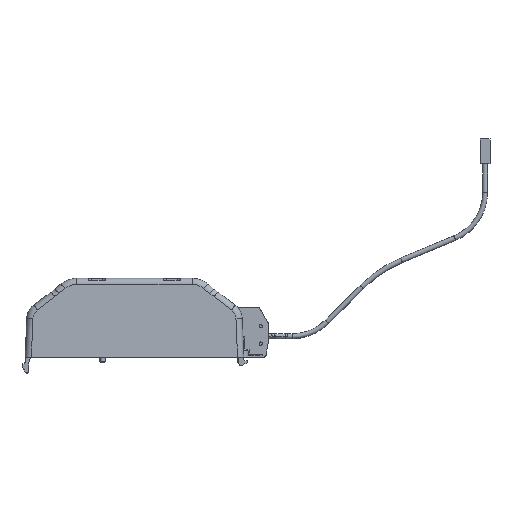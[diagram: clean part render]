
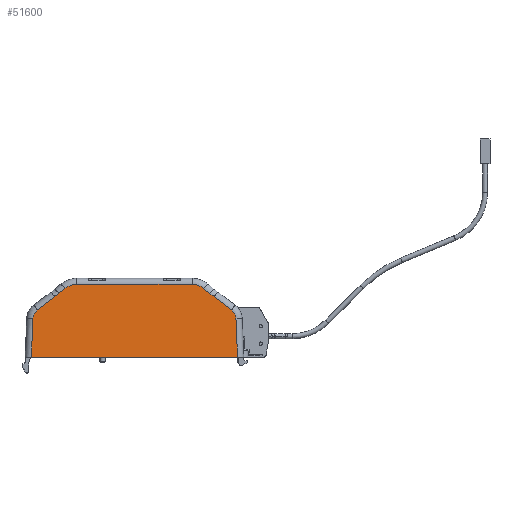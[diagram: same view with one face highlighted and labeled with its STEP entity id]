
A CAD part, left-side view. The second image highlights one B-rep face of the part: STEP entity #51600.
In plain terms, the highlighted planar face has unit normal (-0.999, 0, 0.04).
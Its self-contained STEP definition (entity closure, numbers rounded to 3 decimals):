
#5807=DIRECTION('',(0.,-1.,0.));
#5808=VECTOR('',#5807,83.604);
#5809=CARTESIAN_POINT('',(-28.,41.802,
0.));
#5810=LINE('',#5809,#5808);
#10929=DIRECTION('',(0.,1.,0.));
#10930=VECTOR('',#10929,46.759);
#10931=CARTESIAN_POINT('',(-26.811,-23.38,
29.6));
#10932=LINE('',#10931,#10930);
#11529=DIRECTION('',(0.04,-0.04,0.998));
#11530=VECTOR('',#11529,15.784);
#11531=CARTESIAN_POINT('',(-28.,41.802,
0.));
#11532=LINE('',#11531,#11530);
#11533=CARTESIAN_POINT('',(-27.374,36.668,
15.579));
#11534=DIRECTION('',(0.999,0.,-0.04));
#11535=DIRECTION('',(0.002,0.999,0.04));
#11536=AXIS2_PLACEMENT_3D('',#11533,#11534,#11535);
#11538=DIRECTION('',(0.024,-0.799,0.601));
#11539=VECTOR('',#11538,8.867);
#11540=CARTESIAN_POINT('',(-27.23,39.378,
19.175));
#11541=LINE('',#11540,#11539);
#11542=CARTESIAN_POINT('',(-27.016,32.294,
24.503));
#11543=CARTESIAN_POINT('',(-26.999,31.73,
24.928));
#11544=CARTESIAN_POINT('',(-26.981,31.175,
25.365));
#11545=CARTESIAN_POINT('',(-26.963,30.634,
25.818));
#11547=DIRECTION('',(0.026,-0.768,0.64));
#11548=VECTOR('',#11547,3.194);
#11549=CARTESIAN_POINT('',(-26.963,30.634,
25.818));
#11550=LINE('',#11549,#11548);
#11551=CARTESIAN_POINT('',(-27.112,23.379,
22.11));
#11552=DIRECTION('',(0.999,0.,-0.04));
#11553=DIRECTION('',(0.031,0.641,0.767));
#11554=AXIS2_PLACEMENT_3D('',#11551,#11552,#11553);
#11556=CARTESIAN_POINT('',(-27.112,-23.379,
22.11));
#11557=DIRECTION('',(0.999,0.,-0.04));
#11558=DIRECTION('',(0.04,0.,0.999));
#11559=AXIS2_PLACEMENT_3D('',#11556,#11557,#11558);
#11561=DIRECTION('',(-0.026,-0.768,-0.64));
#11562=VECTOR('',#11561,3.194);
#11563=CARTESIAN_POINT('',(-26.881,-28.181,
27.862));
#11564=LINE('',#11563,#11562);
#11565=CARTESIAN_POINT('',(-26.963,-30.634,
25.818));
#11566=CARTESIAN_POINT('',(-26.981,-31.175,
25.365));
#11567=CARTESIAN_POINT('',(-26.999,-31.73,
24.928));
#11568=CARTESIAN_POINT('',(-27.016,-32.294,
24.503));
#11570=DIRECTION('',(-0.024,-0.799,-0.601));
#11571=VECTOR('',#11570,8.867);
#11572=CARTESIAN_POINT('',(-27.016,-32.294,
24.503));
#11573=LINE('',#11572,#11571);
#11574=CARTESIAN_POINT('',(-27.374,-36.668,
15.579));
#11575=DIRECTION('',(0.999,0.,-0.04));
#11576=DIRECTION('',(0.032,-0.602,0.798));
#11577=AXIS2_PLACEMENT_3D('',#11574,#11575,#11576);
#11579=DIRECTION('',(-0.04,-0.04,-0.998));
#11580=VECTOR('',#11579,15.785);
#11581=CARTESIAN_POINT('',(-27.367,-41.169,
15.759));
#11582=LINE('',#11581,#11580);
#11583=CARTESIAN_POINT('',(-28.,41.802,
0.));
#30115=CARTESIAN_POINT('',(-26.811,-23.379,
29.6));
#30116=VERTEX_POINT('',#30115);
#30117=CARTESIAN_POINT('',(-26.811,23.379,
29.6));
#30118=VERTEX_POINT('',#30117);
#30225=VERTEX_POINT('',#11583);
#30226=CARTESIAN_POINT('',(-28.,-41.802,
0.));
#30227=VERTEX_POINT('',#30226);
#31689=CARTESIAN_POINT('',(-26.963,-30.634,
25.818));
#31690=VERTEX_POINT('',#31689);
#31691=CARTESIAN_POINT('',(-26.881,-28.181,
27.862));
#31692=VERTEX_POINT('',#31691);
#31693=CARTESIAN_POINT('',(-27.016,-32.294,
24.503));
#31694=VERTEX_POINT('',#31693);
#31695=CARTESIAN_POINT('',(-27.23,-39.378,
19.175));
#31696=VERTEX_POINT('',#31695);
#31697=CARTESIAN_POINT('',(-27.367,-41.169,
15.759));
#31698=VERTEX_POINT('',#31697);
#31699=CARTESIAN_POINT('',(-27.367,41.169,
15.759));
#31700=VERTEX_POINT('',#31699);
#31701=CARTESIAN_POINT('',(-27.23,39.378,
19.175));
#31702=VERTEX_POINT('',#31701);
#31703=CARTESIAN_POINT('',(-27.016,32.294,
24.503));
#31704=VERTEX_POINT('',#31703);
#31705=VERTEX_POINT('',#11545);
#31706=CARTESIAN_POINT('',(-26.881,28.181,
27.862));
#31707=VERTEX_POINT('',#31706);
#51573=CARTESIAN_POINT('',(-28.,46.684,0.));
#51574=DIRECTION('',(-0.999,0.,0.04));
#51575=DIRECTION('',(0.,1.,0.));
#51576=AXIS2_PLACEMENT_3D('',#51573,#51574,#51575);
#51577=PLANE('',#51576);
#51578=ORIENTED_EDGE('',*,*,#45017,.F.);
#51580=ORIENTED_EDGE('',*,*,#51579,.T.);
#51582=ORIENTED_EDGE('',*,*,#51581,.T.);
#51584=ORIENTED_EDGE('',*,*,#51583,.T.);
#51586=ORIENTED_EDGE('',*,*,#51585,.T.);
#51588=ORIENTED_EDGE('',*,*,#51587,.T.);
#51590=ORIENTED_EDGE('',*,*,#51589,.T.);
#51591=ORIENTED_EDGE('',*,*,#50671,.F.);
#51592=ORIENTED_EDGE('',*,*,#51131,.T.);
#51593=ORIENTED_EDGE('',*,*,#51491,.T.);
#51594=ORIENTED_EDGE('',*,*,#51525,.T.);
#51595=ORIENTED_EDGE('',*,*,#51539,.T.);
#51596=ORIENTED_EDGE('',*,*,#51553,.T.);
#51597=ORIENTED_EDGE('',*,*,#51565,.T.);
#51598=EDGE_LOOP('',(#51578,#51580,#51582,#51584,#51586,#51588,#51590,#51591,
#51592,#51593,#51594,#51595,#51596,#51597));
#51599=FACE_OUTER_BOUND('',#51598,.F.);
#51600=ADVANCED_FACE('',(#51599),#51577,.T.);
#11537=CIRCLE('',#11536,4.504);
#11546=B_SPLINE_CURVE_WITH_KNOTS('',3,(#11542,#11543,#11544,#11545),
.UNSPECIFIED.,.F.,.F.,(4,4),(0.,1.),.UNSPECIFIED.);
#11555=CIRCLE('',#11554,7.496);
#11560=CIRCLE('',#11559,7.496);
#11569=B_SPLINE_CURVE_WITH_KNOTS('',3,(#11565,#11566,#11567,#11568),
.UNSPECIFIED.,.F.,.F.,(4,4),(0.,1.),.UNSPECIFIED.);
#11578=CIRCLE('',#11577,4.505);
#45017=EDGE_CURVE('',#30225,#30227,#5810,.T.);
#50671=EDGE_CURVE('',#30116,#30118,#10932,.T.);
#51131=EDGE_CURVE('',#30116,#31692,#11560,.T.);
#51491=EDGE_CURVE('',#31692,#31690,#11564,.T.);
#51525=EDGE_CURVE('',#31690,#31694,#11569,.T.);
#51539=EDGE_CURVE('',#31694,#31696,#11573,.T.);
#51553=EDGE_CURVE('',#31696,#31698,#11578,.T.);
#51565=EDGE_CURVE('',#31698,#30227,#11582,.T.);
#51579=EDGE_CURVE('',#30225,#31700,#11532,.T.);
#51581=EDGE_CURVE('',#31700,#31702,#11537,.T.);
#51583=EDGE_CURVE('',#31702,#31704,#11541,.T.);
#51585=EDGE_CURVE('',#31704,#31705,#11546,.T.);
#51587=EDGE_CURVE('',#31705,#31707,#11550,.T.);
#51589=EDGE_CURVE('',#31707,#30118,#11555,.T.);
